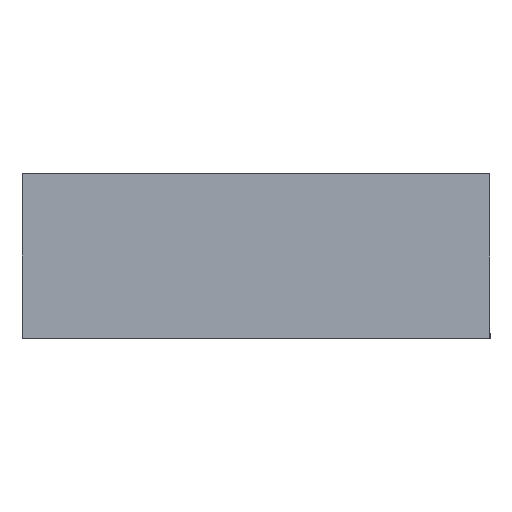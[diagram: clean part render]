
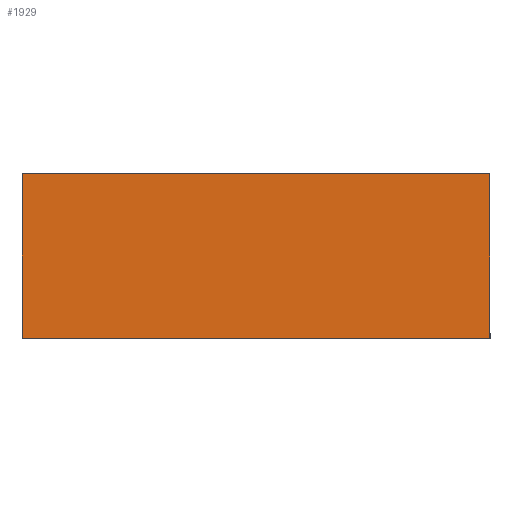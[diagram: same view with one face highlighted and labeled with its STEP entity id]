
A CAD part, left-side view. The second image highlights one B-rep face of the part: STEP entity #1929.
In plain terms, the highlighted planar face has unit normal (-1, 0, 0).
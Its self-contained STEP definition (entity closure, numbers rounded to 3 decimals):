
#1647 = VERTEX_POINT ( 'NONE', #5029 ) ;
#1654 = VERTEX_POINT ( 'NONE', #5084 ) ;
#1656 = EDGE_CURVE ( 'NONE', #1654, #1647, #5083, .T. ) ;
#1778 = VERTEX_POINT ( 'NONE', #5257 ) ;
#1779 = VERTEX_POINT ( 'NONE', #5256 ) ;
#1841 = EDGE_CURVE ( 'NONE', #1778, #1779, #5395, .T. ) ;
#1845 = EDGE_LOOP ( 'NONE', ( #1846, #1847, #1849, #1850 ) ) ;
#1846 = ORIENTED_EDGE ( 'NONE', *, *, #1841, .F. ) ;
#1847 = ORIENTED_EDGE ( 'NONE', *, *, #1848, .F. ) ;
#1848 = EDGE_CURVE ( 'NONE', #1647, #1778, #5387, .T. ) ;
#1849 = ORIENTED_EDGE ( 'NONE', *, *, #1656, .F. ) ;
#1850 = ORIENTED_EDGE ( 'NONE', *, *, #1851, .F. ) ;
#1851 = EDGE_CURVE ( 'NONE', #1779, #1654, #5383, .T. ) ;
#1929 = ADVANCED_FACE ( 'NONE', ( #5501 ), #5506, .F. ) ;
#5029 = CARTESIAN_POINT ( 'NONE',  ( -90., 98., -30. ) ) ;
#5080 = DIRECTION ( 'NONE',  ( 0., 1., 0. ) ) ;
#5081 = VECTOR ( 'NONE', #5080, 1000. ) ;
#5082 = CARTESIAN_POINT ( 'NONE',  ( -90., 110., -30. ) ) ;
#5083 = LINE ( 'NONE', #5082, #5081 ) ;
#5084 = CARTESIAN_POINT ( 'NONE',  ( -90., -30., -30. ) ) ;
#5256 = CARTESIAN_POINT ( 'NONE',  ( -90., -30., 15. ) ) ;
#5257 = CARTESIAN_POINT ( 'NONE',  ( -90., 98., 15. ) ) ;
#5380 = DIRECTION ( 'NONE',  ( 0., 0., -1. ) ) ;
#5381 = VECTOR ( 'NONE', #5380, 1000. ) ;
#5382 = CARTESIAN_POINT ( 'NONE',  ( -90., -30., 15. ) ) ;
#5383 = LINE ( 'NONE', #5382, #5381 ) ;
#5384 = DIRECTION ( 'NONE',  ( 0., 0., 1. ) ) ;
#5385 = VECTOR ( 'NONE', #5384, 1000. ) ;
#5386 = CARTESIAN_POINT ( 'NONE',  ( -90., 98., -30. ) ) ;
#5387 = LINE ( 'NONE', #5386, #5385 ) ;
#5392 = DIRECTION ( 'NONE',  ( 0., -1., 0. ) ) ;
#5393 = VECTOR ( 'NONE', #5392, 1000. ) ;
#5394 = CARTESIAN_POINT ( 'NONE',  ( -90., -30., 15. ) ) ;
#5395 = LINE ( 'NONE', #5394, #5393 ) ;
#5501 = FACE_OUTER_BOUND ( 'NONE', #1845, .T. ) ;
#5506 = PLANE ( 'NONE',  #5563 ) ;
#5560 = DIRECTION ( 'NONE',  ( 0., 0., -1. ) ) ;
#5561 = DIRECTION ( 'NONE',  ( 1., 0., 0. ) ) ;
#5562 = CARTESIAN_POINT ( 'NONE',  ( -90., -30., 15. ) ) ;
#5563 = AXIS2_PLACEMENT_3D ( 'NONE', #5562, #5561, #5560 ) ;
